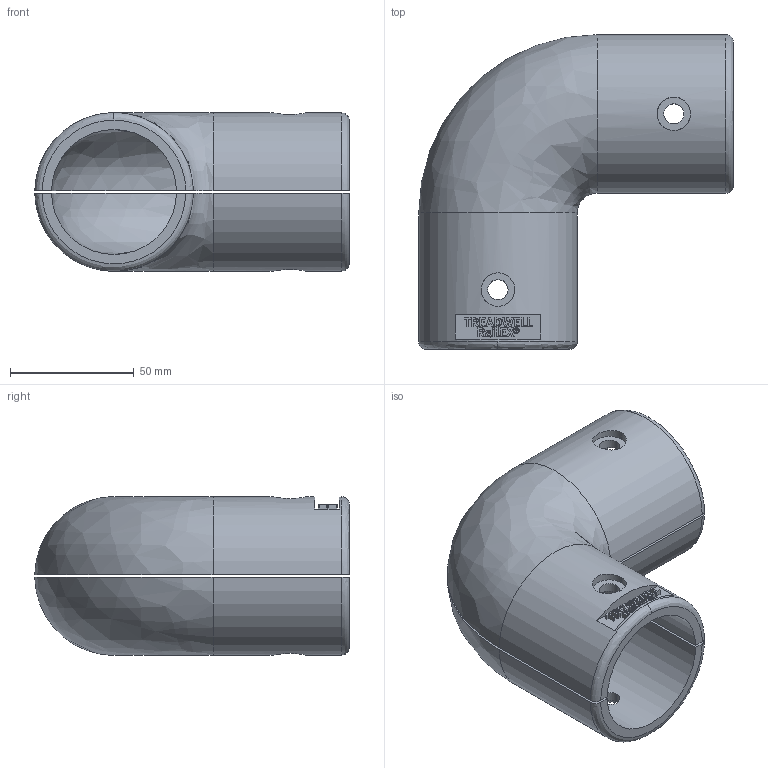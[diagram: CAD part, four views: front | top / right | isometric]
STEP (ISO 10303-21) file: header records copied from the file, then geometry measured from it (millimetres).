
FILE_DESCRIPTION (( 'STEP AP203' ), '1' );
FILE_NAME ('RAILEX STANDARD RXR-CCJ.STEP', '2021-06-17T10:50:14', ( '' ), ( '' ), 'SwSTEP 2.0', 'SolidWorks 2020', '' );
FILE_SCHEMA (( 'CONFIG_CONTROL_DESIGN' ));
Length unit declared in the file: millimetre
Products named in the file (1): RAILEX STANDARD RXR-CCJ
Bounding box: 127 x 127 x 64 mm (x, y, z)
Volume: 203184.2 mm3; surface area: 69172.7 mm2
Topology: 2 solids, 2 shells, 304 faces, 812 edges, 540 vertices
Faces by surface type: plane 184, bspline 90, cylinder 30
Entity records: 13291 total; most frequent: CARTESIAN_POINT 6202, ORIENTED_EDGE 1624, DIRECTION 1107, EDGE_CURVE 812, LINE 565, VECTOR 565, VERTEX_POINT 540, EDGE_LOOP 340
